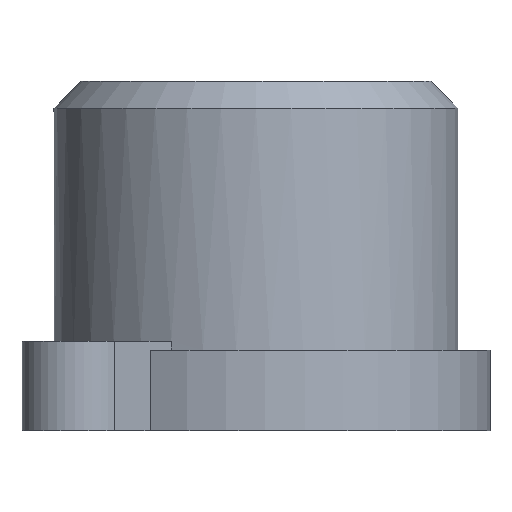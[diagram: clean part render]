
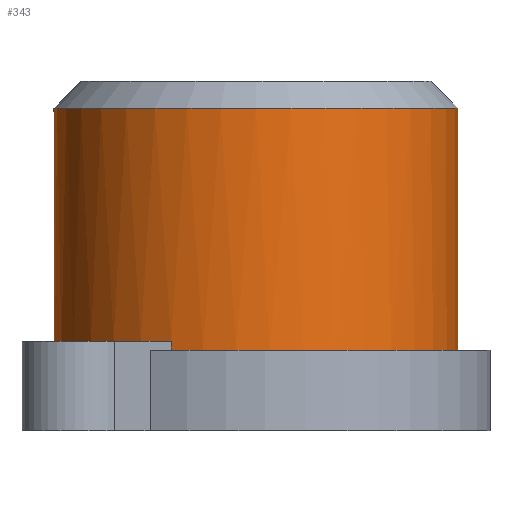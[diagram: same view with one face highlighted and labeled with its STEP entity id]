
A CAD part, front view. The second image highlights one B-rep face of the part: STEP entity #343.
In plain terms, the highlighted cylindrical face has radius 2.26 mm (diameter 4.52 mm), a full revolution.
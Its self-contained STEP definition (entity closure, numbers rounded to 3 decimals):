
#210 = VERTEX_POINT('',#211);
#211 = CARTESIAN_POINT('',(-1.847,-1.303,0.9));
#217 = EDGE_CURVE('',#210,#218,#220,.T.);
#218 = VERTEX_POINT('',#219);
#219 = CARTESIAN_POINT('',(2.26,0.,0.9));
#220 = CIRCLE('',#221,2.26);
#221 = AXIS2_PLACEMENT_3D('',#222,#223,#224);
#222 = CARTESIAN_POINT('',(0.,0.,0.9));
#223 = DIRECTION('',(0.,0.,-1.));
#224 = DIRECTION('',(1.,0.,0.));
#226 = EDGE_CURVE('',#218,#227,#229,.T.);
#227 = VERTEX_POINT('',#228);
#228 = CARTESIAN_POINT('',(-0.947,-2.052,0.9));
#229 = CIRCLE('',#230,2.26);
#230 = AXIS2_PLACEMENT_3D('',#231,#232,#233);
#231 = CARTESIAN_POINT('',(0.,0.,0.9));
#232 = DIRECTION('',(0.,0.,-1.));
#233 = DIRECTION('',(1.,0.,0.));
#266 = VERTEX_POINT('',#267);
#267 = CARTESIAN_POINT('',(-0.947,-2.052,1.));
#273 = EDGE_CURVE('',#266,#227,#274,.T.);
#274 = LINE('',#275,#276);
#275 = CARTESIAN_POINT('',(-0.947,-2.052,0.));
#276 = VECTOR('',#277,1.);
#277 = DIRECTION('',(-0.,-0.,-1.));
#314 = EDGE_CURVE('',#315,#210,#317,.T.);
#315 = VERTEX_POINT('',#316);
#316 = CARTESIAN_POINT('',(-1.847,-1.303,1.));
#317 = LINE('',#318,#319);
#318 = CARTESIAN_POINT('',(-1.847,-1.303,0.));
#319 = VECTOR('',#320,1.);
#320 = DIRECTION('',(-0.,-0.,-1.));
#343 = ADVANCED_FACE('',(#344),#373,.T.);
#344 = FACE_BOUND('',#345,.F.);
#345 = EDGE_LOOP('',(#346,#354,#355,#356,#363,#364,#365,#366));
#346 = ORIENTED_EDGE('',*,*,#347,.F.);
#347 = EDGE_CURVE('',#218,#348,#350,.T.);
#348 = VERTEX_POINT('',#349);
#349 = CARTESIAN_POINT('',(2.26,0.,3.61));
#350 = LINE('',#351,#352);
#351 = CARTESIAN_POINT('',(2.26,0.,0.));
#352 = VECTOR('',#353,1.);
#353 = DIRECTION('',(0.,0.,1.));
#354 = ORIENTED_EDGE('',*,*,#226,.T.);
#355 = ORIENTED_EDGE('',*,*,#273,.F.);
#356 = ORIENTED_EDGE('',*,*,#357,.T.);
#357 = EDGE_CURVE('',#266,#315,#358,.T.);
#358 = CIRCLE('',#359,2.26);
#359 = AXIS2_PLACEMENT_3D('',#360,#361,#362);
#360 = CARTESIAN_POINT('',(0.,0.,1.));
#361 = DIRECTION('',(0.,0.,-1.));
#362 = DIRECTION('',(1.,0.,0.));
#363 = ORIENTED_EDGE('',*,*,#314,.T.);
#364 = ORIENTED_EDGE('',*,*,#217,.T.);
#365 = ORIENTED_EDGE('',*,*,#347,.T.);
#366 = ORIENTED_EDGE('',*,*,#367,.T.);
#367 = EDGE_CURVE('',#348,#348,#368,.T.);
#368 = CIRCLE('',#369,2.26);
#369 = AXIS2_PLACEMENT_3D('',#370,#371,#372);
#370 = CARTESIAN_POINT('',(0.,0.,3.61));
#371 = DIRECTION('',(0.,0.,1.));
#372 = DIRECTION('',(1.,0.,0.));
#373 = CYLINDRICAL_SURFACE('',#374,2.26);
#374 = AXIS2_PLACEMENT_3D('',#375,#376,#377);
#375 = CARTESIAN_POINT('',(0.,0.,0.));
#376 = DIRECTION('',(-0.,-0.,-1.));
#377 = DIRECTION('',(1.,0.,0.));
